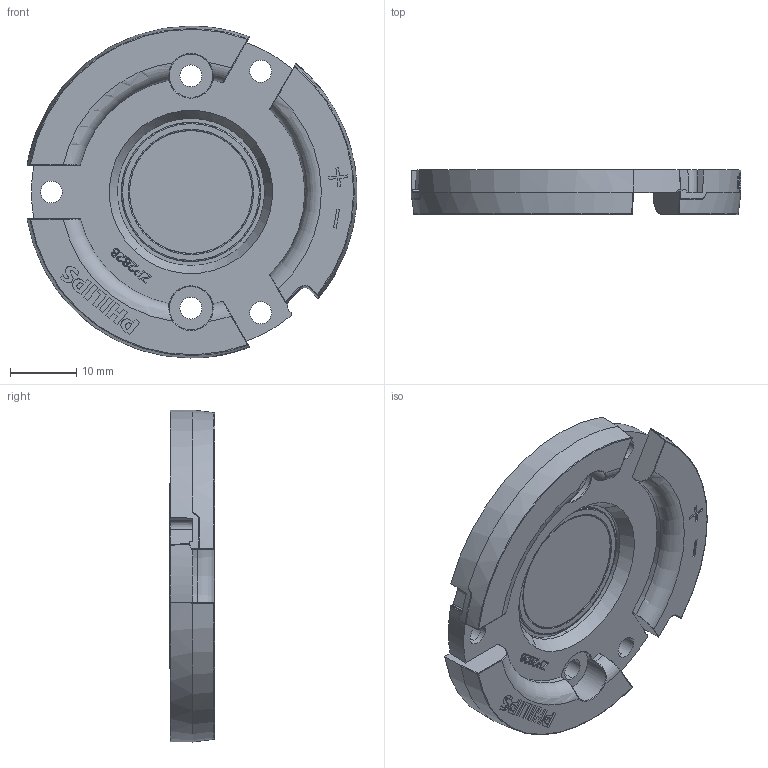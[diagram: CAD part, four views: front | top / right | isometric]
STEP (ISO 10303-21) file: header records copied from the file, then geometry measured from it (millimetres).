
FILE_DESCRIPTION(/* description */ (''),/* implementation_level */ '2;1');
FILE_NAME(/* name */ '2828_0701.stp',/* time_stamp */ '2016-07-01T13:37:52+08:00',/* author */ (''),/* organization */ (''),/* preprocessor_version */ 'ST-DEVELOPER v11',/* originating_system */ 'SIEMENS PLM Software NX 7.5',/* authorisation */ '');
FILE_SCHEMA (('CONFIG_CONTROL_DESIGN'));
Length unit declared in the file: millimetre
Products named in the file (1): 31007DA0m83i
Bounding box: 49.67 x 6.8 x 50 mm (x, y, z)
Volume: 7741.7 mm3; surface area: 6601.6 mm2
Topology: 2 solids, 2 shells, 808 faces, 2281 edges, 1513 vertices
Faces by surface type: plane 487, cylinder 124, extrusion 114, bspline 31, torus 28, cone 14, sphere 10
Entity records: 31797 total; most frequent: CARTESIAN_POINT 11370, ORIENTED_EDGE 4556, DIRECTION 3642, EDGE_CURVE 2278, VECTOR 1592, VERTEX_POINT 1513, LINE 1478, AXIS2_PLACEMENT_3D 1025
